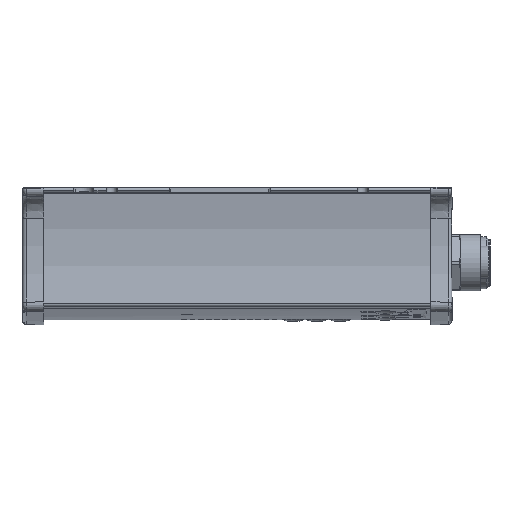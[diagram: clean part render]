
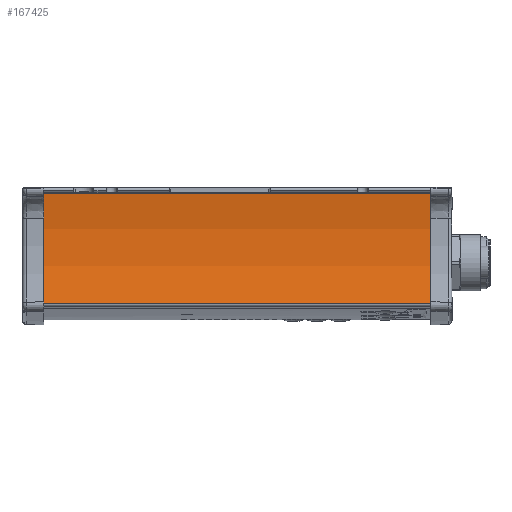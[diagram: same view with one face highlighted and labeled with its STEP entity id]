
A CAD part, left-side view. The second image highlights one B-rep face of the part: STEP entity #167425.
In plain terms, the highlighted cylindrical face has radius 109.9 mm (diameter 219.8 mm), a partial arc.
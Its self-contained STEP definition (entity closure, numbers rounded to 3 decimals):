
#3849 = ORIENTED_EDGE ( 'NONE', *, *, #46126, .F. ) ;
#4525 = DIRECTION ( 'NONE',  ( 0., 0., 1. ) ) ;
#6556 = VERTEX_POINT ( 'NONE', #17529 ) ;
#7215 = CYLINDRICAL_SURFACE ( 'NONE', #19135, 109.9 ) ;
#12905 = EDGE_CURVE ( 'NONE', #67130, #116334, #123406, .T. ) ;
#14998 = EDGE_CURVE ( 'NONE', #6556, #144437, #108861, .T. ) ;
#17529 = CARTESIAN_POINT ( 'NONE',  ( -79.662, -175., -1.548 ) ) ;
#19135 = AXIS2_PLACEMENT_3D ( 'NONE', #31444, #58151, #173033 ) ;
#25461 = CARTESIAN_POINT ( 'NONE',  ( -81.929, -175., -49.24 ) ) ;
#31444 = CARTESIAN_POINT ( 'NONE',  ( -187.95, -175., -20.3 ) ) ;
#33068 = ORIENTED_EDGE ( 'NONE', *, *, #169766, .T. ) ;
#33862 = AXIS2_PLACEMENT_3D ( 'NONE', #154639, #113851, #157468 ) ;
#36877 = DIRECTION ( 'NONE',  ( 0., 1., 0. ) ) ;
#41064 = ORIENTED_EDGE ( 'NONE', *, *, #14998, .T. ) ;
#46126 = EDGE_CURVE ( 'NONE', #6556, #67130, #85617, .T. ) ;
#48137 = CARTESIAN_POINT ( 'NONE',  ( -81.929, -1., -49.24 ) ) ;
#58151 = DIRECTION ( 'NONE',  ( 0., 1., 0. ) ) ;
#67130 = VERTEX_POINT ( 'NONE', #169031 ) ;
#79303 = FACE_OUTER_BOUND ( 'NONE', #124850, .T. ) ;
#85617 = CIRCLE ( 'NONE', #33862, 109.9 ) ;
#108861 = LINE ( 'NONE', #147841, #110349 ) ;
#110349 = VECTOR ( 'NONE', #151541, 1000. ) ;
#113851 = DIRECTION ( 'NONE',  ( 0., 1., 0. ) ) ;
#116334 = VERTEX_POINT ( 'NONE', #48137 ) ;
#120265 = CARTESIAN_POINT ( 'NONE',  ( -187.95, -1., -20.3 ) ) ;
#123406 = LINE ( 'NONE', #25461, #182211 ) ;
#124850 = EDGE_LOOP ( 'NONE', ( #33068, #171508, #3849, #41064 ) ) ;
#144437 = VERTEX_POINT ( 'NONE', #163327 ) ;
#147841 = CARTESIAN_POINT ( 'NONE',  ( -79.662, -175., -1.548 ) ) ;
#150693 = CIRCLE ( 'NONE', #180871, 109.9 ) ;
#151541 = DIRECTION ( 'NONE',  ( 0., 1., 0. ) ) ;
#154639 = CARTESIAN_POINT ( 'NONE',  ( -187.95, -175., -20.3 ) ) ;
#157468 = DIRECTION ( 'NONE',  ( 0., 0., 1. ) ) ;
#163327 = CARTESIAN_POINT ( 'NONE',  ( -79.662, -1., -1.548 ) ) ;
#167425 = ADVANCED_FACE ( 'NONE', ( #79303 ), #7215, .F. ) ;
#169031 = CARTESIAN_POINT ( 'NONE',  ( -81.929, -175., -49.24 ) ) ;
#169766 = EDGE_CURVE ( 'NONE', #144437, #116334, #150693, .T. ) ;
#171508 = ORIENTED_EDGE ( 'NONE', *, *, #12905, .F. ) ;
#173033 = DIRECTION ( 'NONE',  ( 0., 0., -1. ) ) ;
#180020 = DIRECTION ( 'NONE',  ( 0., 1., 0. ) ) ;
#180871 = AXIS2_PLACEMENT_3D ( 'NONE', #120265, #180020, #4525 ) ;
#182211 = VECTOR ( 'NONE', #36877, 1000. ) ;
